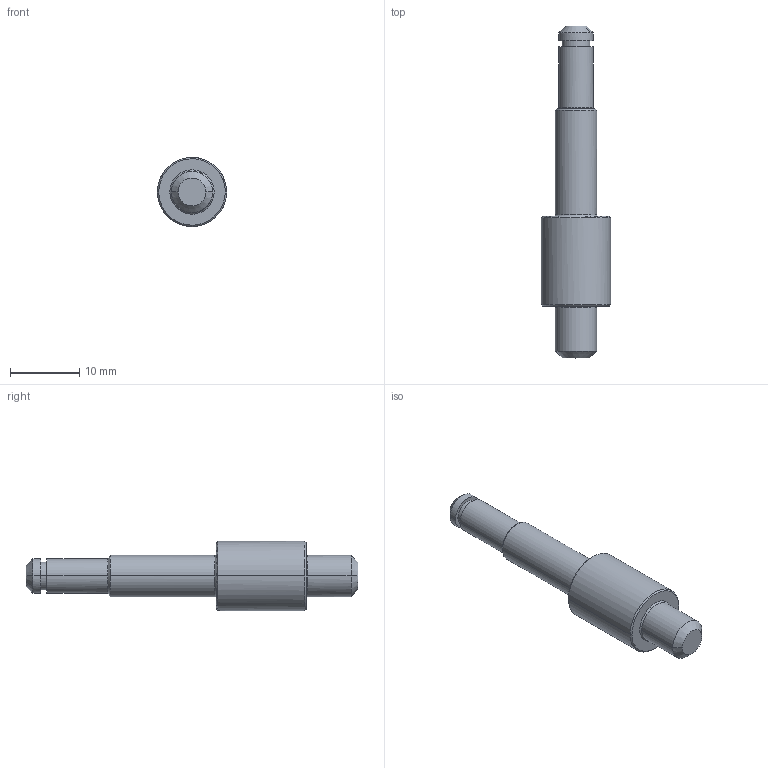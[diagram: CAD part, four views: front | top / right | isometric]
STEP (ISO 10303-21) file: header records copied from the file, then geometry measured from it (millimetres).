
FILE_DESCRIPTION(('CATIA V5 STEP Exchange'),'2;1');
FILE_NAME('C:\Users\nobody\Desktop\SHT0017243_A.stp','2024-04-22T03:38:58+00:00',('none'),('none'),'CATIA Version 5 Release 20 GA (IN-10)','CATIA V5 STEP AP203 Edition 2','none');
FILE_SCHEMA(('AP203_CONFIGURATION_CONTROLLED_3D_DESIGN_OF_MECHANICAL_PARTS_AND_ASSEMBLIES_MIM_LF { 1 0 10303 403 2 1 2}'));
Length unit declared in the file: millimetre
Products named in the file (1): SHT0017243
Bounding box: 10 x 48 x 9.99 mm (x, y, z)
Volume: 1883.8 mm3; surface area: 1159.8 mm2
Topology: 1 solids, 1 shells, 49 faces, 110 edges, 68 vertices
Faces by surface type: cone 30, cylinder 12, plane 7
Entity records: 1582 total; most frequent: CARTESIAN_POINT 552, ORIENTED_EDGE 220, DIRECTION 166, EDGE_CURVE 110, AXIS2_PLACEMENT_3D 93, VERTEX_POINT 68, EDGE_LOOP 54, ADVANCED_FACE 49
